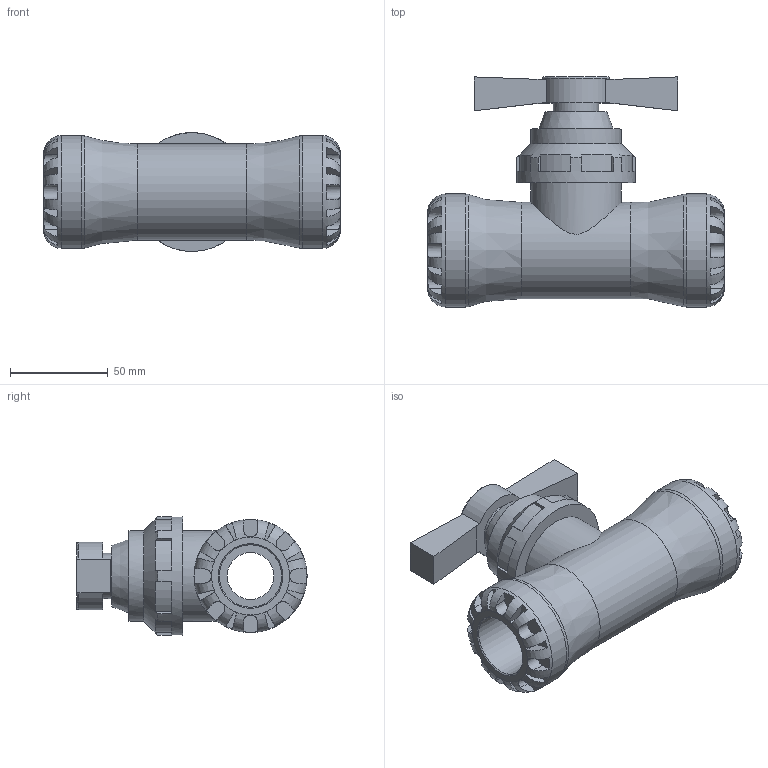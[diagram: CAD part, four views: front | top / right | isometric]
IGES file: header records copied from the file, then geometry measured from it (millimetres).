
Global section: file name: 34100032.ipt; native system: Autodesk Inventor 2015; preprocessor: unknown; author: KIM; date: 20170212.120101; units: millimetre
Bounding box: 152 x 118 x 60.87 mm (x, y, z)
Volume: 346157.4 mm3; surface area: 62223.7 mm2
Topology: 1 solids, 1 shells, 205 faces, 546 edges, 349 vertices
Faces by surface type: plane 143, cylinder 32, revolution 28, cone 2
Full cylindrical faces by diameter (mm): 23.2 x1, 34.8 x1, 46.4 x2, 49.3 x1, 58 x2, 60.9 x1
